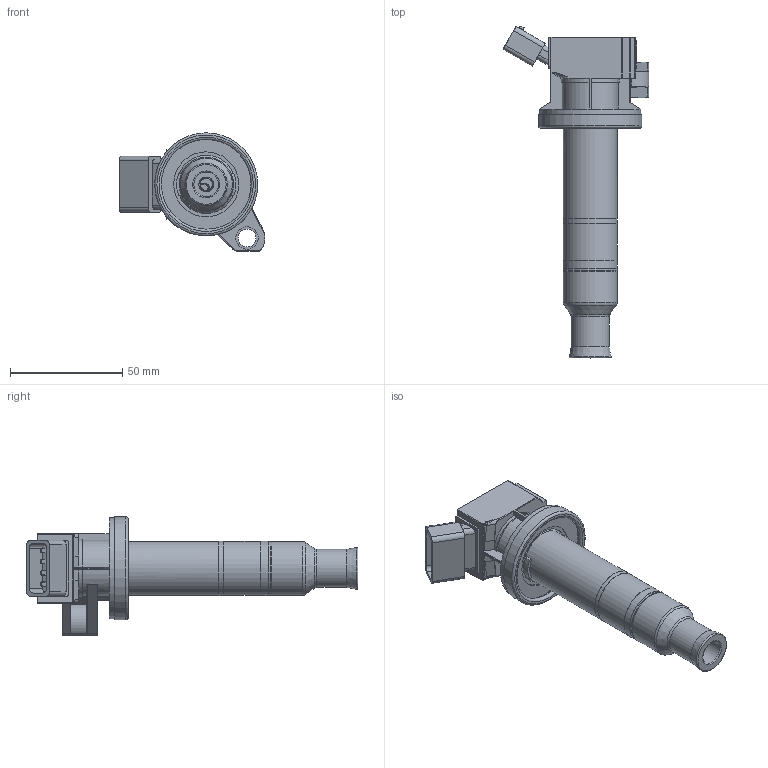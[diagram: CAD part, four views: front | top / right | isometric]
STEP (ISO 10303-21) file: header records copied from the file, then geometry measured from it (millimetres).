
FILE_DESCRIPTION(/* description */ (''),/* implementation_level */ '2;1');
FILE_NAME(/* name */ 'E:\Dropbox\Harjoitukset\Ignition coil\ignition coil.stp',/* time_stamp */ '2018-03-30T19:52:42+03:00',/* author */ ('Antti'),/* organization */ (''),/* preprocessor_version */ 'ST-DEVELOPER v17',/* originating_system */ 'Autodesk Inventor 2018',/* authorisation */ '');
FILE_SCHEMA (('AUTOMOTIVE_DESIGN { 1 0 10303 214 3 1 1 }'));
Length unit declared in the file: millimetre
Products named in the file (7): ignition coil; contact; main; reinforcement; seal1; seal2; spring
Assembly tree (6 placements, depth 2):
  ignition coil
    contact
    main
    reinforcement
    seal1
    seal2
    spring
Bounding box: 65.09 x 148.05 x 52.81 mm (x, y, z)
Volume: 82934.9 mm3; surface area: 31620.3 mm2
Topology: 6 solids, 6 shells, 871 faces, 2334 edges, 1551 vertices
Faces by surface type: plane 438, bspline 241, cylinder 147, torus 33, cone 9, sphere 3
Full cylindrical faces by diameter (mm): 8 x1, 10 x2, 11 x1, 12 x2, 13 x1, 15 x1, 15.5 x2, 17 x4, 18 x2, 19.5 x2, 22 x1, 24 x4, 24.25 x2, 26 x1, 29 x1, 40 x1, 42 x1, 45 x1, 46 x1
Entity records: 31316 total; most frequent: CARTESIAN_POINT 10468, ORIENTED_EDGE 4664, DIRECTION 3572, EDGE_CURVE 2332, VERTEX_POINT 1551, LINE 1394, VECTOR 1394, AXIS2_PLACEMENT_3D 1089
